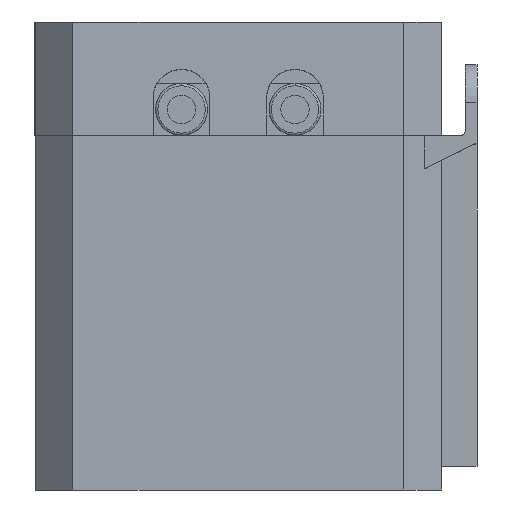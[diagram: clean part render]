
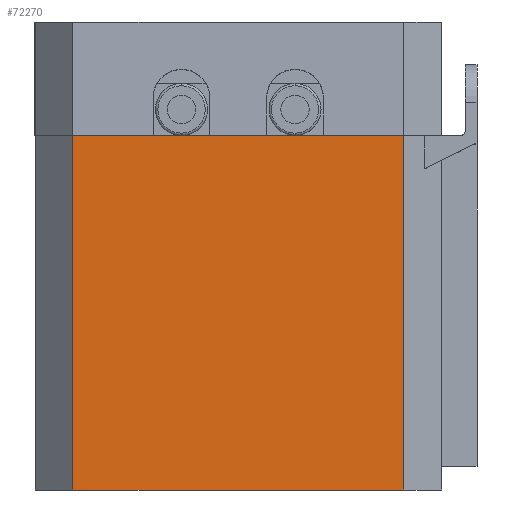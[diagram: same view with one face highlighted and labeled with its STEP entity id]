
A CAD part, left-side view. The second image highlights one B-rep face of the part: STEP entity #72270.
In plain terms, the highlighted planar face has unit normal (-1, 0, -0.007).
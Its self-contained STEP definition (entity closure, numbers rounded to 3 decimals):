
#66600=CARTESIAN_POINT('',(-91.5,43.,-75.));
#66610=DIRECTION('',(0.,-1.,0.));
#66620=VECTOR('',#66610,1.);
#66630=LINE('',#66600,#66620);
#66640=CARTESIAN_POINT('',(-91.5,35.,-75.));
#66650=VERTEX_POINT('',#66640);
#66660=CARTESIAN_POINT('',(-91.5,-35.,-75.));
#66670=VERTEX_POINT('',#66660);
#66680=EDGE_CURVE('',#66650,#66670,#66630,.T.);
#71780=CARTESIAN_POINT('',(-91.748,-35.,-37.806));
#71790=DIRECTION('',(0.007,0.,-1.));
#71800=VECTOR('',#71790,1.);
#71810=LINE('',#71780,#71800);
#71820=CARTESIAN_POINT('',(-92.,-35.,0.));
#71830=VERTEX_POINT('',#71820);
#71840=EDGE_CURVE('',#71830,#66670,#71810,.T.);
#72040=CARTESIAN_POINT('',(-91.75,0.,-37.5));
#72050=DIRECTION('',(1.,-0.,0.007));
#72060=DIRECTION('',(0.007,0.,-1.));
#72070=AXIS2_PLACEMENT_3D('',#72040,#72050,#72060);
#72080=PLANE('',#72070);
#72090=CARTESIAN_POINT('',(-92.,43.,0.));
#72100=DIRECTION('',(0.,-1.,0.));
#72110=VECTOR('',#72100,1.);
#72120=LINE('',#72090,#72110);
#72130=CARTESIAN_POINT('',(-92.,35.,0.));
#72140=VERTEX_POINT('',#72130);
#72150=EDGE_CURVE('',#72140,#71830,#72120,.T.);
#72160=ORIENTED_EDGE('',*,*,#72150,.F.);
#72170=ORIENTED_EDGE('',*,*,#71840,.F.);
#72180=ORIENTED_EDGE('',*,*,#66680,.T.);
#72190=CARTESIAN_POINT('',(-91.748,35.,-37.806));
#72200=DIRECTION('',(-0.007,0.,
1.));
#72210=VECTOR('',#72200,1.);
#72220=LINE('',#72190,#72210);
#72230=EDGE_CURVE('',#66650,#72140,#72220,.T.);
#72240=ORIENTED_EDGE('',*,*,#72230,.F.);
#72250=EDGE_LOOP('',(#72240,#72180,#72170,#72160));
#72260=FACE_OUTER_BOUND('',#72250,.T.);
#72270=ADVANCED_FACE('',(#72260),#72080,.F.);
